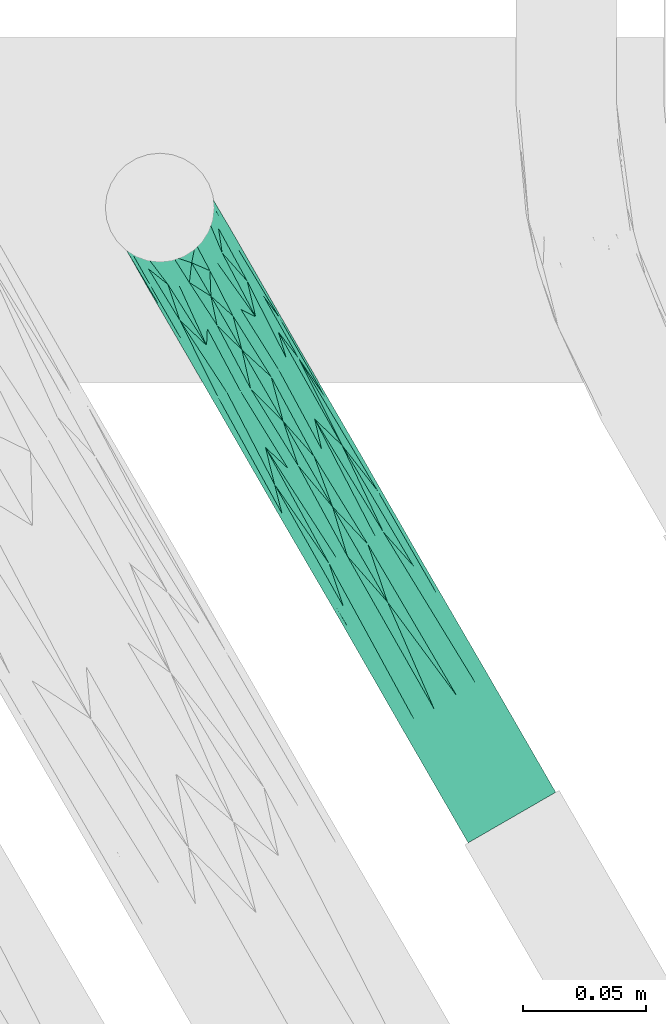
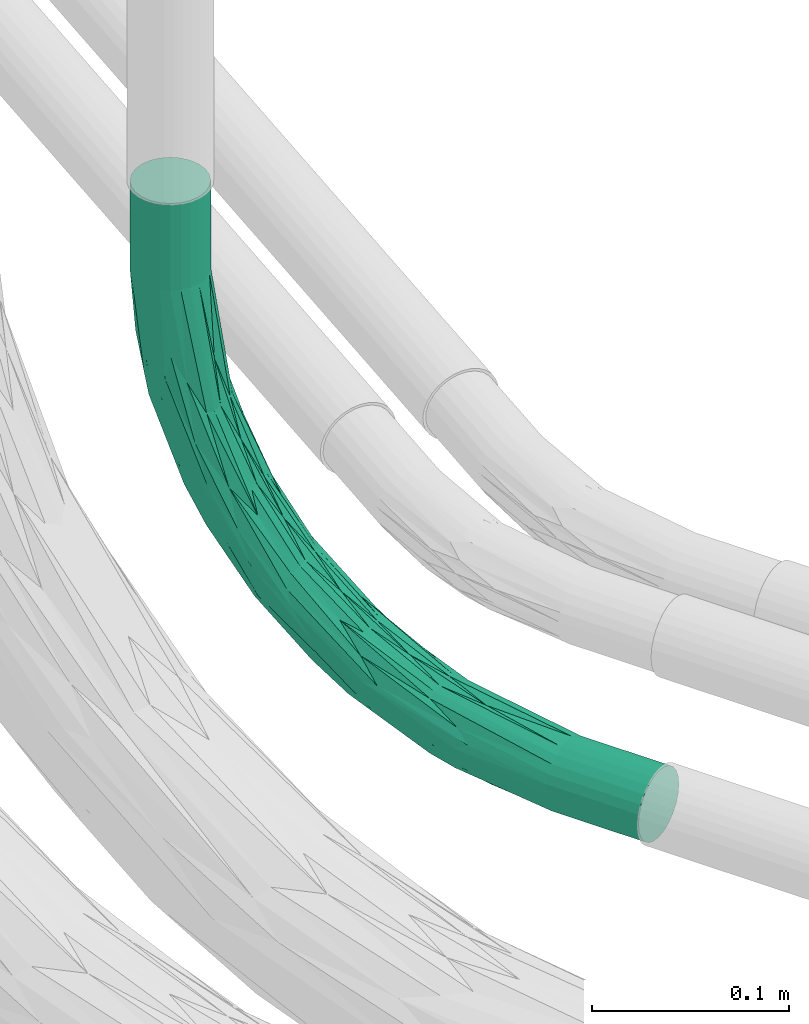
# One storey, part 18 of 18: 1 cable carrier fitting.
"""IFC4 building model written with IfcOpenShell, lengths in centimetres."""

from ifc_helpers import new_model, entity, si_unit, converted_unit, derived_unit, direction, frame, origin, place, context, subcontext, project, spatial, polygons, source, transform, mapped, material, type_object, type_shapes, element, save


model = new_model("IFC4")

# Units and contexts
model_context = context("Model", 3, precision=0.001, world=origin(), true_north=direction((6.123233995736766e-17, 1.0)))
body_context = subcontext(model_context, "Body", "Model", "MODEL_VIEW")
ifc_project = project(units=[si_unit("LENGTHUNIT", "METRE", prefix="CENTI"), si_unit("AREAUNIT", "SQUARE_METRE"), converted_unit("PLANEANGLEUNIT", "DEGREE", entity("IfcPlaneAngleMeasure", 0.017453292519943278), si_unit("PLANEANGLEUNIT", "RADIAN"), dimensions=[0, 0, 0, 0, 0, 0, 0]), si_unit("VOLUMEUNIT", "CUBIC_METRE"), derived_unit("THERMALTRANSMITTANCEUNIT", [(si_unit("MASSUNIT", "GRAM", prefix="KILO"), 1), (si_unit("THERMODYNAMICTEMPERATUREUNIT", "KELVIN"), -1), (si_unit("TIMEUNIT", "SECOND"), -3)])], contexts=[model_context])

# Site, building, storey
site_placement = place(None, frame((-0.003347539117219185, 0.0, 0.0)))
site = spatial("IfcSite", under=ifc_project, at=site_placement, Name="Default", CompositionType="ELEMENT")
building_placement = place(site_placement, origin())
building = spatial("IfcBuilding", under=site, at=building_placement, CompositionType="ELEMENT")
storey_placement = place(building_placement, frame((0.0, 0.0, -30.0)))
storey = spatial("IfcBuildingStorey", under=building, at=storey_placement, Name="Fondation B.O.", CompositionType="ELEMENT", Elevation=-30.0)

# Cable carrier fitting
ifc_material = material(Name="<Unnamed>")
cable_carrier_fitting_type = type_object("IfcCableCarrierFittingType", Name="Courbure de conduit en plastique rigide - Sans raccords:Raccord TPC BT", PredefinedType="NOTDEFINED", material=ifc_material)
shared_shape = source(origin(), body_context, "Body", "Tessellation", [
    polygons([(-28.555999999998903, -2.05000000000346, -1.936944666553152e-13), (-28.55599999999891, -1.9801479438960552, 0.5305790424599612), (-28.555999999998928, -1.77535207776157, 1.0249999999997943), (-28.55599999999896, -1.4495689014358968, 1.4495689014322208), (-28.555999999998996, -1.025000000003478, 1.7753520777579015), (-28.555999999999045, -0.5305790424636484, 1.9801479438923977), (-28.55599999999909, -3.4821946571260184e-12, 2.0499999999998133), (-28.555999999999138, 0.5305790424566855, 1.980147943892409), (-28.555999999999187, 1.0249999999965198, 1.7753520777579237), (-28.555999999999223, 1.4495689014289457, 1.4495689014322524), (-28.555999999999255, 1.775352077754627, 1.0249999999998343), (-28.555999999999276, 1.9801479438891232, 0.5305790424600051), (-28.55599999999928, 2.04999999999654, -1.7382326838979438e-13), (-28.555999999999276, 1.9801479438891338, -0.5305790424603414), (-28.555999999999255, 1.7753520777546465, -1.0250000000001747), (-28.555999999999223, 1.4495689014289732, -1.449568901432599), (-28.555999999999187, 1.0249999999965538, -1.7753520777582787), (-28.555999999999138, 0.5305790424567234, -1.980147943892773), (-28.55599999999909, -3.444775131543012e-12, -2.0500000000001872), (-28.555999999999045, -0.5305790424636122, -1.9801479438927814), (-28.555999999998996, -1.0250000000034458, -1.7753520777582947), (-28.55599999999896, -1.4495689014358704, -1.4495689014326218), (-28.555999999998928, -1.7753520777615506, -1.0250000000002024), (-28.55599999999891, -1.9801479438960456, -0.5305790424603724), (-23.16500000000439, -2.050000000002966, -1.936944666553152e-13), (-23.165000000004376, -1.9801479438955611, 0.5305790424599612), (-23.165000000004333, -1.7753520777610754, 1.0249999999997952), (-23.165000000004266, -1.449568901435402, 1.4495689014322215), (-23.165000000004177, -1.025000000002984, 1.7753520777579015), (-23.165000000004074, -0.5305790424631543, 1.9801479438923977), (-23.16500000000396, -2.9881365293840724e-12, 2.0499999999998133), (-23.16500000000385, 0.5305790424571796, 1.980147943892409), (-23.165000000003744, 1.0249999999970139, 1.7753520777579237), (-23.16500000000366, 1.4495689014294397, 1.4495689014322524), (-23.165000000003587, 1.775352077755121, 1.0249999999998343), (-23.165000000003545, 1.9801479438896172, 0.5305790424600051), (-23.165000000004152, 2.049999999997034, -1.610779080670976e-13), (-23.165000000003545, 1.980147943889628, -0.5305790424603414), (-23.165000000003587, 1.7753520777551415, -1.025000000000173), (-23.16500000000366, 1.4495689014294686, -1.4495689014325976), (-23.165000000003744, 1.024999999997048, -1.7753520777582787), (-23.16500000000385, 0.5305790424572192, -1.9801479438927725), (-23.16500000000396, -2.947075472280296e-12, -2.0500000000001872), (-23.165000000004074, -0.5305790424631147, -1.980147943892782), (-23.165000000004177, -1.0250000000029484, -1.7753520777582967), (-23.165000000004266, -1.4495689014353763, -1.4495689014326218), (-23.165000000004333, -1.7753520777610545, -1.0250000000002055), (-23.165000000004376, -1.9801479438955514, -0.5305790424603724), (-2.0499999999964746, 23.16499999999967, -1.7200250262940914e-13), (-2.5793971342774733, 18.466470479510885, -1.7200250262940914e-13), (-4.141042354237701, 14.003544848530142, -1.7200250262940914e-13), (-6.65662824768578, 10.00001283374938, -1.7200250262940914e-13), (-10.00001283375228, 6.65662824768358, -1.7200250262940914e-13), (-14.003544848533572, 4.14104235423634, -1.7200250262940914e-13), (-18.466470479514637, 2.5793971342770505, -1.7200250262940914e-13), (-17.55413465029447, -1.417807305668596, -1.9460484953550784e-13), (-12.224621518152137, 0.4470699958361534, -1.9460484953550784e-13), (-7.443704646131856, 3.4511191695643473, -1.9460484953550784e-13), (-3.451119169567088, 7.443704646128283, -1.9460484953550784e-13), (-0.4470699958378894, 12.224621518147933, -1.9460484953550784e-13), (1.4178073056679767, 17.55413465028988, -1.9460484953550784e-13), (2.050000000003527, 23.16499999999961, -1.9460484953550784e-13), (1.9801479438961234, 23.16499999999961, 0.530579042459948), (1.7753520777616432, 23.164999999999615, 1.0249999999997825), (1.4495689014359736, 23.16499999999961, 1.4495689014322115), (1.025000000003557, 23.16499999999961, 1.7753520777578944), (0.53057904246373, 23.164999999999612, 1.9801479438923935), (3.5633096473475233e-12, 23.164999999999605, 2.049999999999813), (-0.5305790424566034, 23.16499999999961, 1.9801479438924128), (-1.0249999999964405, 23.16499999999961, 1.7753520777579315), (-1.4495689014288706, 23.16499999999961, 1.449568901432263), (-1.7753520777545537, 23.16499999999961, 1.024999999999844), (-1.9801479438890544, 23.16499999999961, 0.530579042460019), (-7.850671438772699, 7.850671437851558, 1.3894749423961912), (-5.786891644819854, 5.786891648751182, 1.486799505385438), (-7.982227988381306, 5.9389133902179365, 2.039926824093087), (-11.75201822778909, 5.214340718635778, 0.7859116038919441), (-5.214340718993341, 11.752018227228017, 0.7859116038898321), (-9.959854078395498, 1.906991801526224, 0.8607010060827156), (-1.9069917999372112, 9.959854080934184, 0.860701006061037), (-1.6208754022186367, 12.615620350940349, 1.8774107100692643), (-12.615620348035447, 1.6208754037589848, 1.8774107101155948), (-3.0805803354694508, 13.205160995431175, 1.9091909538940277), (-14.361430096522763, 2.5526374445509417, 1.9073526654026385), (-15.929508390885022, 2.858870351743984, 1.2711669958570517), (-2.858870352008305, 15.929508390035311, 1.2711669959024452), (-15.883703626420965, -0.550905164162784, 1.225325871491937), (0.5509051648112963, 15.88370362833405, 1.2253258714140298), (-16.043176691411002, 3.2266472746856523, 0.48051297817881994), (-8.194056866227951, 8.194056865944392, 0.48051297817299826), (-3.226647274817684, 16.04317669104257, 0.48051297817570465), (-15.011365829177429, -0.6178037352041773, 0.5433976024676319), (-5.38715558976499, 5.38715559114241, 0.5433976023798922), (0.6178037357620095, 15.011365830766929, 0.543397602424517), (-0.6596811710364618, 16.546169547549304, 2.028889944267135), (-16.546169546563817, 0.6596811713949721, 2.028889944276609), (-17.71768588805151, 1.9176883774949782, 1.6396110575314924), (-1.9176883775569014, 17.71768588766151, 1.639611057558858), (-11.867832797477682, 5.285661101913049, 0.3739264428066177), (-5.285661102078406, 11.867832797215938, 0.37392644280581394), (-17.585472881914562, -0.6193801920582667, 1.6131092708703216), (-11.291180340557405, 1.6841671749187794, 1.5167501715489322), (0.6193801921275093, 17.585472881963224, 1.6131092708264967), (-1.6841671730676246, 11.291180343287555, 1.5167501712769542), (-3.9839025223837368, 9.716419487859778, 2.033313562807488), (-6.198481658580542, 6.19848166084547, 1.8747784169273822), (-0.8778958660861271, 17.822866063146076, 2.035114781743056), (-17.822866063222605, 0.877895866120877, 2.0351147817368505), (-12.039712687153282, 4.347917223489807, 1.5808788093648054), (-7.127279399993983, 7.849399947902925, 1.7956693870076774), (-4.3479172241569, 12.039712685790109, 1.580878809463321), (-9.821353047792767, 1.817965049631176, 0.4061272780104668), (-1.8179650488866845, 9.821353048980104, 0.4061272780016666), (0.2770566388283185, 18.174348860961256, 1.8864364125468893), (-18.17434885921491, -0.2770566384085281, 1.8864364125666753), (-12.558773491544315, 2.6254103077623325, 2.0494232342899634), (-8.534509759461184, 4.762866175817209, 2.0208710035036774), (-1.263103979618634, 18.478035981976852, 1.9010202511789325), (-5.535324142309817, 5.535324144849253, 1.0391165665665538), (-15.949689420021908, 3.1013804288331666, 0.8968178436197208), (-3.1013804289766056, 15.949689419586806, 0.8968178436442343), (-2.2224202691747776, 13.348301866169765, 2.049687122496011), (-4.692948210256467, 9.460471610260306, 2.0434029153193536), (-6.254927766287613, 8.187163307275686, 1.9675659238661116), (-9.911662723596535, 5.056904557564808, 1.917521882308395), (-3.079461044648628, 12.430353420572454, 2.012393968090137), (-12.059076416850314, 3.329593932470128, 2.003944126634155), (-19.162500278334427, 1.1303428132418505, 1.899986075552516), (-2.8045255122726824, 8.995340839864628, 1.2289205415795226), (-8.99534083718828, 2.8045255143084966, 1.2289205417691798), (-8.091144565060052, 8.09114456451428, 0.8887074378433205), (-10.5641527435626, 5.782792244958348, 1.151712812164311), (-5.782792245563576, 10.56415274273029, 1.1517128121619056), (-19.193538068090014, -1.583145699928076, 0.7702816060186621), (-18.94005154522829, -1.6544439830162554, 0.39555111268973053), (-15.304326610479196, -0.5739593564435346, 0.9006287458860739), (1.5831457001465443, 19.193538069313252, 0.7702816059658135), (1.6544439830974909, 18.940051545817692, 0.3955511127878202), (0.5739593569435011, 15.304326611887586, 0.9006287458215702), (-12.34201097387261, 2.288668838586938, 2.019889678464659), (-1.980147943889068, 23.16499999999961, -0.530579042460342), (-1.7753520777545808, 23.16499999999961, -1.0250000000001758), (-1.4495689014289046, 23.16499999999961, -1.4495689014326), (-1.0249999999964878, 23.16499999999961, -1.7753520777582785), (-0.5305790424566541, 23.16499999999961, -1.980147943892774), (3.5125502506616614e-12, 23.164999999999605, -2.0500000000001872), (0.5305790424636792, 23.164999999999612, -1.9801479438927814), (1.025000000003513, 23.16499999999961, -1.7753520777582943), (1.4495689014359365, 23.164999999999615, -1.4495689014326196), (1.775352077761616, 23.164999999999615, -1.025000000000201), (1.9801479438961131, 23.16499999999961, -0.5305790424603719), (-7.850671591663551, 7.850671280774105, -1.389474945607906), (-5.786891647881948, 5.7868916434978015, -1.4867995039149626), (-5.938913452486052, 7.982227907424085, -2.039926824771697), (-11.752018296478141, 5.214340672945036, -0.7859116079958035), (-5.214340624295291, 11.752018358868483, -0.7859116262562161), (-1.9069917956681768, 9.959854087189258, -0.8607010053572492), (-9.959854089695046, 1.906991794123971, -0.8607010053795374), (-12.615620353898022, 1.620875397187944, -1.877410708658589), (-1.6208754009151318, 12.61562034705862, -1.8774107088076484), (-13.205161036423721, 3.080580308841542, -1.9091909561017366), (-2.5526374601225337, 14.361430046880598, -1.9073526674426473), (-15.92950838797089, 2.858870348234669, -1.271167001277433), (-2.858870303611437, 15.929508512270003, -1.27116700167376), (0.5509051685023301, 15.883703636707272, -1.2253258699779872), (-15.88370363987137, -0.5509051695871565, -1.2253258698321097), (-8.194056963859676, 8.194056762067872, -0.4805129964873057), (-16.04317672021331, 3.2266472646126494, -0.4805129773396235), (-3.226647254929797, 16.043176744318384, -0.4805129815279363), (-5.387155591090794, 5.3871555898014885, -0.5433976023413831), (0.6178037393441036, 15.011365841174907, -0.5433976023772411), (-15.011365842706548, -0.6178037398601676, -0.5433976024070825), (-16.54616954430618, 0.6596811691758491, -2.028889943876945), (-0.6596811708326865, 16.546169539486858, -2.0288899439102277), (-17.71768589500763, 1.9176883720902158, -1.6396110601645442), (-1.9176883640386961, 17.717685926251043, -1.6396110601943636), (-11.867832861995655, 5.285661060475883, -0.3739264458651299), (-5.285661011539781, 11.867832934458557, -0.3739264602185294), (0.6193801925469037, 17.585472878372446, -1.6131092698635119), (-1.6841671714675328, 11.291180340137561, -1.5167501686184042), (-17.585472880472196, -0.6193801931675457, -1.6131092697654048), (-11.291180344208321, 1.6841671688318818, -1.516750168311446), (-9.71641950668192, 3.9839024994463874, -2.033313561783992), (-6.198481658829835, 6.198481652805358, -1.8747784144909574), (-17.822866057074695, 0.8778958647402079, -2.035114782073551), (-0.877895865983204, 17.822866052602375, -2.0351147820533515), (-12.039712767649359, 4.34791716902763, -1.580878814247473), (-6.8582445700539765, 8.065068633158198, -1.8214082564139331), (-4.347917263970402, 12.03971260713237, -1.5808788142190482), (-1.817965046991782, 9.821353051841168, -0.40612727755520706), (-9.821353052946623, 1.8179650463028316, -0.4061272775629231), (-18.174348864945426, -0.2770566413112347, -1.886436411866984), (0.2770566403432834, 18.174348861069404, -1.8864364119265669), (-2.6254103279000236, 12.558773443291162, -2.0494232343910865), (-4.7628662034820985, 8.534509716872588, -2.0208710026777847), (-18.478036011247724, 1.263103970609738, -1.9010202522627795), (-5.535324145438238, 5.535324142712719, -1.0391165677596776), (-15.94968949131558, 3.10138040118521, -0.8968178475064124), (-3.1013803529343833, 15.949689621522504, -0.8968178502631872), (-13.34830186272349, 2.2224202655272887, -2.049687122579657), (-9.460471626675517, 4.692948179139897, -2.0434029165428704), (-8.175814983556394, 6.254759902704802, -1.9697877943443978), (-4.85109418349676, 9.976355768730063, -1.9613128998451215), (-12.43035339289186, 3.079461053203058, -2.0123939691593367), (-9.945131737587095, 5.228750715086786, -1.849938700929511), (-1.1303428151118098, 19.16250025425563, -1.8999860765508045), (-8.995340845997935, 2.804525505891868, -1.2289205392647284), (-2.80452550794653, 8.995340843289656, -1.2289205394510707), (-8.091144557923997, 8.09114455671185, -0.8887074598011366), (-5.782792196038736, 10.564152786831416, -1.1517128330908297), (-10.564152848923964, 5.782792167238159, -1.1517128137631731), (1.5831457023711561, 19.19353808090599, -0.7702816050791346), (1.6544439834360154, 18.940051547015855, -0.39555111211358), (0.5739593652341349, 15.304326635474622, -0.9006287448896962), (-19.193538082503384, -1.583145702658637, -0.7702816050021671), (-18.9400515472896, -1.6544439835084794, -0.3955511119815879), (-15.304326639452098, -0.5739593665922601, -0.9006287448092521), (-8.58688912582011, 6.774987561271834, -1.6401640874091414), (-2.21539150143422, 14.236871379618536, -2.012120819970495), (-2.2886688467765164, 12.34201094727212, -2.0198896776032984), (2.050000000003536, 28.5559999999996, -2.060315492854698e-13), (1.9801479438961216, 28.5559999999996, -0.5305790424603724), (1.7753520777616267, 28.5559999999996, -1.0250000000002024), (1.4495689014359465, 28.5559999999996, -1.4495689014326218), (1.025000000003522, 28.555999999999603, -1.7753520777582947), (0.5305790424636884, 28.555999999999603, -1.9801479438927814), (3.5209142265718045e-12, 28.555999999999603, -2.0500000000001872), (-0.5305790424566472, 28.555999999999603, -1.980147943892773), (-1.0249999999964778, 28.555999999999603, -1.7753520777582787), (-1.4495689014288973, 28.555999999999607, -1.449568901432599), (-1.7753520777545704, 28.555999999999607, -1.0250000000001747), (-1.9801479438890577, 28.555999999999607, -0.5305790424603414), (-2.049999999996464, 28.555999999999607, -1.6289867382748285e-13), (-1.980147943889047, 28.555999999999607, 0.5305790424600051), (-1.7753520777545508, 28.555999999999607, 1.0249999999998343), (-1.4495689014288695, 28.555999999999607, 1.4495689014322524), (-1.0249999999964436, 28.555999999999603, 1.7753520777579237), (-0.5305790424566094, 28.555999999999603, 1.980147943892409), (3.55833375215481e-12, 28.555999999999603, 2.0499999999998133), (0.5305790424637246, 28.555999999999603, 1.9801479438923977), (1.0250000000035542, 28.555999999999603, 1.7753520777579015), (1.449568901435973, 28.5559999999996, 1.4495689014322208), (1.7753520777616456, 28.5559999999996, 1.0249999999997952), (1.9801479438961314, 28.5559999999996, 0.5305790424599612)], [[[19, 20, 21, 22, 23, 24, 1, 2, 3, 4, 5, 6, 7, 8, 9, 10, 11, 12, 13, 14, 15, 16, 17, 18]], [[2, 1, 25, 26]], [[27, 3, 2, 26]], [[5, 4, 28, 29]], [[27, 28, 4, 3]], [[6, 5, 29, 30]], [[30, 31, 7, 6]], [[9, 8, 32, 33]], [[34, 10, 9, 33]], [[12, 11, 35, 36]], [[34, 35, 11, 10]], [[13, 12, 36, 37]], [[32, 8, 7, 31]], [[14, 13, 37, 38]], [[39, 15, 14, 38]], [[17, 16, 40, 41]], [[39, 40, 16, 15]], [[18, 17, 41, 42]], [[42, 43, 19, 18]], [[21, 20, 44, 45]], [[46, 22, 21, 45]], [[24, 23, 47, 48]], [[46, 47, 23, 22]], [[1, 24, 48, 25]], [[44, 20, 19, 43]], [[54, 55, 89]], [[57, 92, 56]], [[72, 86, 71]], [[57, 58, 112]], [[135, 25, 56]], [[85, 35, 34]], [[27, 87, 28]], [[73, 50, 91]], [[93, 59, 113]], [[57, 112, 92]], [[28, 87, 101]], [[101, 102, 82]], [[30, 29, 115]], [[134, 136, 87]], [[135, 92, 134]], [[121, 72, 73]], [[60, 61, 94]], [[96, 108, 31]], [[99, 53, 54]], [[120, 77, 89]], [[117, 105, 76]], [[95, 67, 68]], [[32, 31, 108]], [[88, 64, 65]], [[85, 120, 35]], [[131, 78, 90]], [[66, 67, 114]], [[55, 37, 36]], [[77, 99, 89]], [[68, 107, 95]], [[91, 121, 73]], [[30, 96, 31]], [[33, 32, 128]], [[105, 106, 81]], [[59, 93, 58]], [[134, 87, 27]], [[81, 114, 95]], [[131, 90, 77]], [[79, 93, 119]], [[94, 80, 113]], [[99, 90, 53]], [[129, 88, 104]], [[55, 36, 89]], [[88, 139, 137]], [[26, 134, 27]], [[139, 94, 137]], [[103, 65, 66]], [[28, 101, 29]], [[88, 103, 104]], [[63, 138, 62]], [[36, 35, 120]], [[79, 119, 130]], [[50, 51, 91]], [[52, 53, 90]], [[115, 96, 30]], [[91, 51, 100]], [[49, 50, 73]], [[88, 65, 103]], [[74, 109, 110]], [[34, 97, 85]], [[131, 133, 78]], [[98, 70, 71]], [[52, 100, 51]], [[78, 100, 90]], [[34, 33, 97]], [[85, 97, 109]], [[131, 132, 74]], [[81, 95, 105]], [[69, 70, 118]], [[98, 111, 83]], [[111, 98, 86]], [[113, 59, 60]], [[121, 91, 78]], [[98, 71, 86]], [[119, 93, 80]], [[112, 93, 79]], [[63, 137, 138]], [[137, 63, 64]], [[107, 68, 69]], [[123, 105, 122]], [[82, 106, 117]], [[127, 108, 116]], [[128, 97, 33]], [[109, 74, 132]], [[86, 133, 111]], [[118, 98, 83]], [[89, 99, 54]], [[90, 99, 77]], [[90, 100, 52]], [[91, 100, 78]], [[102, 101, 87]], [[115, 101, 82]], [[130, 87, 79]], [[102, 75, 106]], [[114, 103, 66]], [[81, 106, 104]], [[81, 104, 103]], [[75, 119, 129]], [[95, 107, 122]], [[76, 116, 117]], [[102, 106, 82]], [[104, 106, 75]], [[118, 107, 69]], [[95, 122, 105]], [[116, 108, 96]], [[128, 108, 84]], [[97, 84, 109]], [[124, 125, 76]], [[125, 109, 84]], [[123, 124, 76]], [[74, 110, 111]], [[83, 111, 110]], [[93, 112, 58]], [[92, 112, 79]], [[94, 113, 60]], [[93, 113, 80]], [[95, 114, 67]], [[103, 114, 81]], [[101, 115, 29]], [[96, 115, 82]], [[116, 140, 117]], [[76, 125, 127]], [[116, 96, 140]], [[105, 117, 106]], [[98, 118, 70]], [[118, 83, 126]], [[129, 119, 80]], [[130, 75, 102]], [[120, 89, 36]], [[132, 120, 85]], [[133, 121, 78]], [[72, 121, 86]], [[126, 107, 118]], [[105, 123, 76]], [[122, 126, 123]], [[124, 83, 110]], [[124, 123, 126]], [[125, 124, 110]], [[109, 125, 110]], [[125, 84, 127]], [[107, 126, 122]], [[124, 126, 83]], [[108, 127, 84]], [[76, 127, 116]], [[108, 128, 32]], [[97, 128, 84]], [[88, 129, 80]], [[75, 129, 104]], [[75, 130, 119]], [[87, 130, 102]], [[132, 131, 77]], [[133, 131, 74]], [[120, 132, 77]], [[109, 132, 85]], [[111, 133, 74]], [[121, 133, 86]], [[135, 134, 26]], [[134, 92, 136]], [[25, 135, 26]], [[56, 92, 135]], [[92, 79, 136]], [[79, 87, 136]], [[88, 137, 64]], [[138, 137, 94]], [[94, 61, 138]], [[62, 138, 61]], [[88, 80, 139]], [[80, 94, 139]], [[96, 82, 140]], [[82, 117, 140]], [[175, 41, 40]], [[179, 180, 160]], [[159, 173, 183]], [[175, 40, 163]], [[53, 177, 54]], [[173, 44, 43]], [[37, 55, 38]], [[147, 174, 146]], [[53, 52, 167]], [[54, 177, 168]], [[45, 44, 192]], [[55, 54, 168]], [[164, 142, 143]], [[39, 163, 40]], [[178, 167, 52]], [[42, 41, 196]], [[172, 215, 217]], [[50, 141, 169]], [[215, 166, 217]], [[197, 170, 158]], [[191, 170, 58]], [[48, 216, 25]], [[191, 58, 57]], [[141, 142, 199]], [[159, 192, 173]], [[198, 168, 155]], [[198, 39, 38]], [[191, 172, 158]], [[170, 197, 157]], [[195, 183, 154]], [[182, 207, 166]], [[212, 150, 151]], [[38, 55, 168]], [[166, 46, 181]], [[177, 167, 155]], [[209, 167, 156]], [[169, 156, 178]], [[166, 47, 46]], [[209, 155, 167]], [[143, 176, 164]], [[50, 49, 141]], [[43, 185, 173]], [[156, 169, 199]], [[51, 50, 169]], [[146, 186, 145]], [[183, 184, 159]], [[149, 179, 148]], [[186, 146, 174]], [[57, 56, 172]], [[164, 199, 142]], [[181, 46, 45]], [[145, 206, 144]], [[165, 179, 149]], [[209, 210, 152]], [[193, 174, 147]], [[170, 59, 58]], [[190, 171, 60]], [[212, 165, 150]], [[165, 149, 150]], [[148, 193, 147]], [[59, 190, 60]], [[163, 187, 175]], [[61, 213, 62]], [[164, 176, 189]], [[201, 202, 154]], [[61, 60, 171]], [[209, 211, 155]], [[170, 157, 190]], [[143, 144, 176]], [[52, 51, 178]], [[157, 197, 208]], [[168, 198, 38]], [[166, 181, 182]], [[187, 152, 218]], [[212, 214, 165]], [[213, 171, 212]], [[48, 215, 216]], [[215, 48, 47]], [[185, 43, 42]], [[201, 183, 200]], [[160, 184, 195]], [[194, 219, 186]], [[163, 211, 187]], [[196, 175, 161]], [[206, 176, 144]], [[162, 188, 189]], [[167, 177, 53]], [[168, 177, 155]], [[169, 178, 51]], [[167, 178, 156]], [[180, 179, 165]], [[193, 179, 160]], [[208, 165, 157]], [[180, 153, 184]], [[192, 181, 45]], [[159, 184, 182]], [[159, 182, 181]], [[153, 197, 207]], [[173, 185, 200]], [[154, 194, 195]], [[180, 184, 160]], [[182, 184, 153]], [[196, 185, 42]], [[173, 200, 183]], [[194, 186, 174]], [[186, 219, 206]], [[189, 152, 210]], [[161, 175, 187]], [[202, 203, 154]], [[205, 188, 202]], [[162, 189, 176]], [[218, 189, 188]], [[170, 190, 59]], [[171, 190, 157]], [[172, 191, 57]], [[170, 191, 158]], [[173, 192, 44]], [[181, 192, 159]], [[179, 193, 148]], [[174, 193, 160]], [[194, 220, 195]], [[194, 154, 203]], [[194, 174, 220]], [[183, 195, 184]], [[175, 196, 41]], [[196, 161, 204]], [[207, 197, 158]], [[208, 153, 180]], [[211, 198, 155]], [[39, 198, 163]], [[199, 169, 141]], [[210, 199, 164]], [[204, 185, 196]], [[183, 201, 154]], [[200, 204, 201]], [[202, 188, 203]], [[204, 202, 201]], [[205, 202, 161]], [[188, 162, 203]], [[203, 162, 219]], [[185, 204, 200]], [[202, 204, 161]], [[161, 187, 205]], [[218, 205, 187]], [[186, 206, 145]], [[176, 206, 162]], [[166, 207, 158]], [[153, 207, 182]], [[153, 208, 197]], [[165, 208, 180]], [[210, 209, 156]], [[211, 209, 152]], [[199, 210, 156]], [[189, 210, 164]], [[187, 211, 152]], [[198, 211, 163]], [[213, 212, 151]], [[212, 171, 214]], [[62, 213, 151]], [[61, 171, 213]], [[171, 157, 214]], [[157, 165, 214]], [[166, 215, 47]], [[216, 215, 172]], [[172, 56, 216]], [[25, 216, 56]], [[166, 158, 217]], [[158, 172, 217]], [[189, 218, 152]], [[205, 218, 188]], [[203, 219, 194]], [[206, 219, 162]], [[174, 160, 220]], [[160, 195, 220]], [[223, 224, 225, 226, 227, 228, 229, 230, 231, 232, 233, 234, 235, 236, 237, 238, 239, 240, 241, 242, 243, 244, 221, 222]], [[63, 62, 221, 244]], [[243, 64, 63, 244]], [[66, 65, 242, 241]], [[243, 242, 65, 64]], [[67, 66, 241, 240]], [[240, 239, 68, 67]], [[70, 69, 238, 237]], [[236, 71, 70, 237]], [[73, 72, 235, 234]], [[236, 235, 72, 71]], [[49, 73, 234, 233]], [[238, 69, 68, 239]], [[141, 49, 233, 232]], [[231, 142, 141, 232]], [[144, 143, 230, 229]], [[231, 230, 143, 142]], [[145, 144, 229, 228]], [[228, 227, 146, 145]], [[148, 147, 226, 225]], [[224, 149, 148, 225]], [[151, 150, 223, 222]], [[224, 223, 150, 149]], [[62, 151, 222, 221]], [[226, 147, 146, 227]]], closed=True),
])
type_shapes(cable_carrier_fitting_type, [shared_shape])
cable_carrier_fitting_placement = place(storey_placement, frame((-5970.585049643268, -1890.779262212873, -11.0), z_axis=(-0.8660254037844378, -0.5000000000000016, 0.0), x_axis=(0.0, 0.0, -1.0)))
element("IfcCableCarrierFitting", 1, at=cable_carrier_fitting_placement, inside=storey, type_object=cable_carrier_fitting_type, material=ifc_material, Name="Courbure de conduit en plastique rigide - Sans raccords:Raccord TPC BT", ObjectType="Courbure de conduit en plastique rigide - Sans raccords:Raccord TPC BT", PredefinedType="NOTDEFINED", context=body_context, shape_type="MappedRepresentation", body=[
    mapped(shared_shape, transform((0.0, 0.0, 0.0), scale=1.0)),
])

save(model, "model.ifc")
